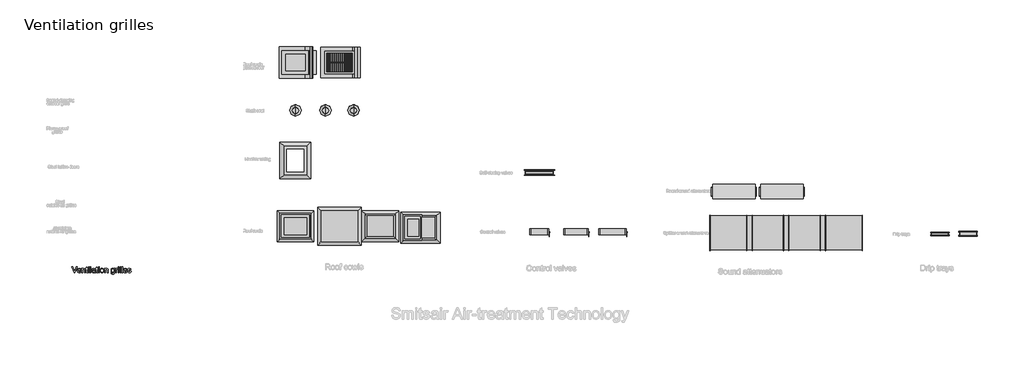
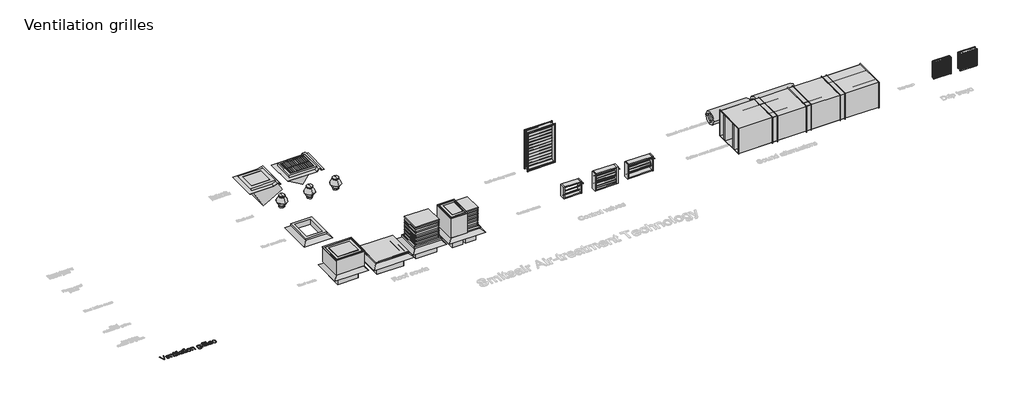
# One storey, part 1 of 10: 12 air terminals, 9 dampers, 5 duct fittings, 1 proxy.
"""IFC4 building model written with IfcOpenShell, lengths in millimetres."""

from ifc_helpers import new_model, si_unit, origin, origin_with_axes, place, context, project, spatial, polyline, outline, extrude, transform, mapped, element, save
from components import air_terminal_31453509, bv_70v_7faa3e46, dk_2_3b327718, dk_2_3_7b97e303, dk_2v_9633a85e, dk_3_dd5dadc6, jkg_1_cb74e8c6, jkk_2_e62a3763, jkk_4_09f567d1, sk_1_al_21574908, dv_225_al_61a347db, dv_325_al_647e2a6a, gd_100_r_55da12c4, gd_200_r_bc078321, gr_9b835bf4, grk_93a78ed1, zk_1_24b9cdc8, dos_al_ee18bb0b, dos_al_2780d545, dos_al_068ffbaa, dos_al_2472da44

model = new_model("IFC4")

# Units and contexts
model_context = context("Model", 3, world=origin())
ifc_project = project(units=[si_unit("LENGTHUNIT", "METRE", prefix="MILLI")], contexts=[model_context])

# Site, building, storey
site = spatial("IfcSite", under=ifc_project)
building = spatial("IfcBuilding", under=site)
storey = spatial("IfcBuildingStorey", under=building, Name="Ventilation grilles", Elevation=0.0)

# Air terminals
placement = place(None, origin())
air_terminal_shape = air_terminal_31453509(model_context)
element("IfcAirTerminal", 1, ObjectType="AIR_FB_Roof cowl DK-2 sunken_SMA : DK-2-sunken", at=placement, inside=storey, context=model_context, shape_type="MappedRepresentation", body=[
    mapped(air_terminal_shape, transform((5432.8807028, -14830.3145791, 0.0), x_axis=(0.0, 1.0, 0.0), y_axis=(-1.0, 0.0, 0.0), z_axis=(0.0, 0.0, 1.0))),
])
bv_70v_shape = bv_70v_7faa3e46(model_context)
element("IfcAirTerminal", 2, ObjectType="AIR_FB_Roof cowl BV-70V_SMA : BV-70V", at=placement, inside=storey, context=model_context, shape_type="MappedRepresentation", body=[
    mapped(bv_70v_shape, transform((5432.8807028, -9030.3145791, 0.0), x_axis=(0.0, 1.0, 0.0), y_axis=(-1.0, 0.0, 0.0), z_axis=(0.0, 0.0, 1.0))),
])
dk_2_shape = dk_2_3b327718(model_context)
element("IfcAirTerminal", 3, ObjectType="AIR_FB_Roof cowl DK-2_SMA : DK-2", at=placement, inside=storey, context=model_context, shape_type="MappedRepresentation", body=[
    mapped(dk_2_shape, transform((3871.0782702, -14830.3145791, 0.0), x_axis=(0.0, 1.0, 0.0), y_axis=(-1.0, 0.0, 0.0), z_axis=(0.0, 0.0, 1.0))),
])
dk_2_3_shape = dk_2_3_7b97e303(model_context)
element("IfcAirTerminal", 4, ObjectType="AIR_FB_Roof cowl DK-23_SMA : DK-2/3", at=placement, inside=storey, context=model_context, shape_type="MappedRepresentation", body=[
    mapped(dk_2_3_shape, transform((8344.8595513, -14880.3145791, 0.0), x_axis=(1.0, 0.0, 0.0), y_axis=(0.0, 1.0, 0.0), z_axis=(0.0, 0.0, 1.0))),
])
dk_2v_shape = dk_2v_9633a85e(model_context)
element("IfcAirTerminal", 5, ObjectType="AIR_FB_Roof cowl DK-2V_SMA : DK-2V", at=placement, inside=storey, context=model_context, shape_type="MappedRepresentation", body=[
    mapped(dk_2v_shape, transform((3871.0782702, -9030.3145791, 0.0), x_axis=(0.0, 1.0, 0.0), y_axis=(-1.0, 0.0, 0.0), z_axis=(0.0, 0.0, 1.0))),
])
dk_3_shape = dk_3_dd5dadc6(model_context)
element("IfcAirTerminal", 6, ObjectType="AIR_FB_Roof cowl DK-3_SMA : DK-3", at=placement, inside=storey, context=model_context, shape_type="MappedRepresentation", body=[
    mapped(dk_3_shape, transform((6877.1260102, -14830.3145791, 0.0), x_axis=(0.0, 1.0, 0.0), y_axis=(-1.0, 0.0, 0.0), z_axis=(0.0, 0.0, 1.0))),
])
jkg_1_shape = jkg_1_cb74e8c6(model_context)
element("IfcAirTerminal", 7, ObjectType="DUA_UN_Volume control valve_SMA : JKG-1", at=placement, inside=storey, context=model_context, shape_type="MappedRepresentation", body=[
    mapped(jkg_1_shape, transform((12512.8807028, -15031.1141048, 300.0), x_axis=(0.0, -1.0, 0.0), y_axis=(1.0, 0.0, 0.0), z_axis=(0.0, 0.0, 1.0))),
])
jkk_2_shape = jkk_2_e62a3763(model_context)
element("IfcAirTerminal", 8, ObjectType="DUA_UN_Volume control valve_SMA : JKK-2", at=placement, inside=storey, context=model_context, shape_type="MappedRepresentation", body=[
    mapped(jkk_2_shape, transform((13812.8807028, -15031.1141048, 300.0), x_axis=(0.0, -1.0, 0.0), y_axis=(1.0, 0.0, 0.0), z_axis=(0.0, 0.0, 1.0))),
])
jkk_4_shape = jkk_4_09f567d1(model_context)
element("IfcAirTerminal", 9, ObjectType="DUA_UN_Volume control valve_SMA : JKK-4", at=placement, inside=storey, context=model_context, shape_type="MappedRepresentation", body=[
    mapped(jkk_4_shape, transform((15112.8807028, -15031.1141048, 300.0), x_axis=(0.0, -1.0, 0.0), y_axis=(1.0, 0.0, 0.0), z_axis=(0.0, 0.0, 1.0))),
])
sk_1_al_shape = sk_1_al_21574908(model_context)
element("IfcAirTerminal", 10, ObjectType="AIR_FB_Shaft cowl SK-1_SMA : SK-1/AL", at=placement, inside=storey, context=model_context, shape_type="MappedRepresentation", body=[
    mapped(sk_1_al_shape, transform((3871.0782702, -10726.9189375, 0.0), x_axis=(0.0, 1.0, 0.0), y_axis=(-1.0, 0.0, 0.0), z_axis=(0.0, 0.0, 1.0))),
])
element("IfcAirTerminal", 11, ObjectType="AIR_FB_Shaft cowl SK-1_SMA : SK-1/RVS", at=placement, inside=storey, context=model_context, shape_type="MappedRepresentation", body=[
    mapped(sk_1_al_shape, transform((4932.8807028, -10726.9189375, 0.0), x_axis=(0.0, 1.0, 0.0), y_axis=(-1.0, 0.0, 0.0), z_axis=(0.0, 0.0, 1.0))),
])
element("IfcAirTerminal", 12, ObjectType="AIR_FB_Shaft cowl SK-1_SMA : SK-1/VV", at=placement, inside=storey, context=model_context, shape_type="MappedRepresentation", body=[
    mapped(sk_1_al_shape, transform((5932.8807028, -10726.9189375, 0.0), x_axis=(0.0, 1.0, 0.0), y_axis=(-1.0, 0.0, 0.0), z_axis=(0.0, 0.0, 1.0))),
])

# Proxy
element("IfcBuildingElementProxy", 13, Name="200mm", ObjectType="200mm", at=placement, inside=storey, context=model_context, shape_type="SweptSolid", body=[
    extrude(outline(polyline([(-3971.9374393, -16478.0938306), (-4051.8904596, -16277.1812103), (-4025.0105485, -16277.1812103), (-3971.4959809, -16421.9305126), (-3960.6557248, -16454.5493829), (-3949.9626215, -16421.9305126), (-3896.3009011, -16277.1812103), (-3869.42099, -16277.1812103), (-3945.9894959, -16478.0938306), (-3971.9374393, -16478.0938306)])), origin_with_axes(), (0.0, 0.0, 1.0), 5.0),
    extrude(outline(polyline([(-3745.9107415, -16434.1441949), (-3721.2871733, -16437.2834546), (-3730.1592607, -16455.8369699), (-3744.3165862, -16469.7061211), (-3763.4403186, -16478.351348), (-3787.2116268, -16481.2330903), (-3816.6789746, -16476.260552), (-3839.3527683, -16461.3429371), (-3853.8105307, -16437.4490015), (-3858.6297848, -16405.5475011), (-3853.7614798, -16372.5730116), (-3839.1565645, -16347.9126552), (-3816.7893392, -16332.5351878), (-3788.6341039, -16327.4093653), (-3761.3556539, -16332.5229251), (-3739.5586457, -16347.8636043), (-3725.2664302, -16372.4749098), (-3720.5023584, -16405.4003483), (-3720.6495112, -16412.169377), (-3833.5157073, -16412.169377), (-3829.1685684, -16430.968147), (-3819.0702076, -16444.7882473), (-3804.4959492, -16453.2863214), (-3786.7211175, -16456.1190127), (-3762.0975493, -16450.8705629), (-3752.9495503, -16444.064746), (-3745.9107415, -16434.1441949)]), holes=[polyline([(-3833.5157073, -16387.0552995), (-3745.6164359, -16387.0552995), (-3749.013213, -16373.7870222), (-3755.6718771, -16364.2956667), (-3770.3135805, -16355.4664988), (-3788.7322057, -16352.5234429), (-3805.6609089, -16354.8717563), (-3819.6588188, -16361.9166965), (-3829.3892976, -16372.897974), (-3833.5157073, -16387.0552995)])]), origin_with_axes(), (0.0, 0.0, 1.0), 5.0),
    extrude(outline(polyline([(-3695.3882808, -16478.0938306), (-3695.3882808, -16330.548625), (-3670.2742033, -16330.548625), (-3670.2742033, -16351.1500168), (-3661.5492686, -16340.7634818), (-3651.0707631, -16333.3445282), (-3638.8386868, -16328.8931561), (-3624.8530396, -16327.4093653), (-3601.1369137, -16332.1918313), (-3584.9501059, -16344.74887), (-3577.4207877, -16363.2165462), (-3576.0964125, -16387.4967579), (-3576.0964125, -16478.0938306), (-3601.2104901, -16478.0938306), (-3601.2104901, -16390.8812722), (-3604.1044951, -16368.6611997), (-3614.3316146, -16356.9135014), (-3631.5730174, -16352.5234429), (-3646.2821658, -16354.9882522), (-3658.8208105, -16362.3826803), (-3667.4108551, -16376.6687645), (-3670.2742033, -16399.808542), (-3670.2742033, -16478.0938306), (-3695.3882808, -16478.0938306)])), origin_with_axes(), (0.0, 0.0, 1.0), 5.0),
    extrude(outline(polyline([(-3488.1971411, -16457.1490823), (-3485.0578815, -16478.8295946), (-3503.8443887, -16481.2330903), (-3524.8872388, -16477.063761), (-3535.3841384, -16466.125403), (-3538.4252962, -16437.6268111), (-3538.4252962, -16355.6627026), (-3557.2608544, -16355.6627026), (-3557.2608544, -16330.548625), (-3538.4252962, -16330.548625), (-3538.4252962, -16294.6923932), (-3513.3112187, -16279.9280625), (-3513.3112187, -16330.548625), (-3488.1971411, -16330.548625), (-3488.1971411, -16355.6627026), (-3513.3112187, -16355.6627026), (-3513.3112187, -16436.8910471), (-3511.9868435, -16449.8404933), (-3507.6948869, -16454.4267555), (-3499.1354991, -16456.1190127), (-3488.1971411, -16457.1490823)])), origin_with_axes(), (0.0, 0.0, 1.0), 5.0),
    extrude(outline(polyline([(-3463.0830636, -16478.0938306), (-3463.0830636, -16330.548625), (-3437.9689861, -16330.548625), (-3437.9689861, -16478.0938306), (-3463.0830636, -16478.0938306)])), origin_with_axes(), (0.0, 0.0, 1.0), 5.0),
    extrude(outline(polyline([(-3463.0830636, -16302.2952878), (-3463.0830636, -16277.1812103), (-3437.9689861, -16277.1812103), (-3437.9689861, -16302.2952878), (-3463.0830636, -16302.2952878)])), origin_with_axes(), (0.0, 0.0, 1.0), 5.0),
    extrude(outline(polyline([(-3400.2978698, -16478.0938306), (-3400.2978698, -16277.1812103), (-3375.1837922, -16277.1812103), (-3375.1837922, -16478.0938306), (-3400.2978698, -16478.0938306)])), origin_with_axes(), (0.0, 0.0, 1.0), 5.0),
    extrude(outline(polyline([(-3243.3348852, -16459.2582724), (-3267.6886732, -16476.2789461), (-3294.5931098, -16481.2330903), (-3315.5807776, -16478.2532461), (-3331.0624783, -16469.3137136), (-3340.6090161, -16455.738868), (-3343.7911953, -16438.8530844), (-3338.9842039, -16418.9874567), (-3326.3535887, -16404.5664825), (-3308.7688294, -16396.3259258), (-3287.0392662, -16392.549004), (-3243.482038, -16383.9160398), (-3243.3348852, -16378.3242335), (-3245.0639305, -16367.1160954), (-3250.2510667, -16359.7829809), (-3261.8516123, -16354.3383274), (-3278.0138946, -16352.5234429), (-3292.974429, -16353.7313221), (-3303.4222777, -16357.3549597), (-3310.5469257, -16364.0565434), (-3315.5378581, -16374.4982607), (-3340.6519356, -16371.359001), (-3329.787154, -16346.8335347), (-3320.5287905, -16338.5807153), (-3307.910438, -16332.4616114), (-3274.776533, -16327.4093653), (-3244.3404293, -16331.8730002), (-3227.1480774, -16343.0811383), (-3219.4470809, -16360.1263374), (-3218.2208076, -16382.1011553), (-3218.2208076, -16413.3465994), (-3216.9454834, -16456.977404), (-3211.9422882, -16478.0938306), (-3237.0563658, -16478.0938306), (-3243.3348852, -16459.2582724)]), holes=[polyline([(-3243.3348852, -16409.0301173), (-3283.8509556, -16416.7311138), (-3305.4578914, -16420.8023412), (-3315.2435525, -16427.4242171), (-3318.6771178, -16437.0872508), (-3316.807051, -16444.5552553), (-3311.1968505, -16450.6743592), (-3301.9691438, -16454.7578493), (-3289.2465582, -16456.1190127), (-3275.7575517, -16454.6168279), (-3263.838175, -16450.1102735), (-3247.4551635, -16435.5666719), (-3243.482038, -16416.1425026), (-3243.3348852, -16409.0301173)])]), origin_with_axes(), (0.0, 0.0, 1.0), 5.0),
    extrude(outline(polyline([(-3130.3215362, -16457.1490823), (-3127.1822765, -16478.8295946), (-3145.9687838, -16481.2330903), (-3167.0116339, -16477.063761), (-3177.5085335, -16466.125403), (-3180.5496913, -16437.6268111), (-3180.5496913, -16355.6627026), (-3199.3852495, -16355.6627026), (-3199.3852495, -16330.548625), (-3180.5496913, -16330.548625), (-3180.5496913, -16294.6923932), (-3155.4356138, -16279.9280625), (-3155.4356138, -16330.548625), (-3130.3215362, -16330.548625), (-3130.3215362, -16355.6627026), (-3155.4356138, -16355.6627026), (-3155.4356138, -16436.8910471), (-3154.1112386, -16449.8404933), (-3149.819282, -16454.4267555), (-3141.2598942, -16456.1190127), (-3130.3215362, -16457.1490823)])), origin_with_axes(), (0.0, 0.0, 1.0), 5.0),
    extrude(outline(polyline([(-3105.2074587, -16478.0938306), (-3105.2074587, -16330.548625), (-3080.0933812, -16330.548625), (-3080.0933812, -16478.0938306), (-3105.2074587, -16478.0938306)])), origin_with_axes(), (0.0, 0.0, 1.0), 5.0),
    extrude(outline(polyline([(-3105.2074587, -16302.2952878), (-3105.2074587, -16277.1812103), (-3080.0933812, -16277.1812103), (-3080.0933812, -16302.2952878), (-3105.2074587, -16302.2952878)])), origin_with_axes(), (0.0, 0.0, 1.0), 5.0),
    extrude(outline(polyline([(-3048.7007842, -16404.3212278), (-3043.2683934, -16368.7470389), (-3036.477905, -16354.9238729), (-3026.9712211, -16343.7433259), (-3006.8358132, -16331.4928555), (-2982.7272798, -16327.4093653), (-2956.3440094, -16332.3819036), (-2935.2705024, -16347.2995185), (-2921.4565335, -16370.9849877), (-2916.8518772, -16402.2610886), (-2918.8874909, -16427.6326836), (-2924.994332, -16446.9464883), (-2934.9945909, -16461.4103821), (-2948.710458, -16472.2322441), (-2965.001499, -16478.9828787), (-2982.7272798, -16481.2330903), (-3009.4293813, -16476.2789461), (-3030.4783628, -16461.4165135), (-3044.1451789, -16437.2344036), (-3048.7007842, -16404.3212278)]), holes=[polyline([(-3023.5867067, -16404.2721769), (-3020.6804389, -16427.0011528), (-3011.9616357, -16443.194092), (-2998.8405112, -16452.8877825), (-2982.7272798, -16456.1190127), (-2966.6876248, -16452.8693884), (-2953.5910258, -16443.1205156), (-2944.8722225, -16426.7129786), (-2941.9659547, -16403.4873619), (-2944.8906166, -16381.4205736), (-2953.6646022, -16365.4483636), (-2966.7795953, -16355.7546731), (-2982.7272798, -16352.5234429), (-2998.8405112, -16355.7424103), (-3011.9616357, -16365.3993127), (-3020.6804389, -16381.5554637), (-3023.5867067, -16404.2721769)])]), origin_with_axes(), (0.0, 0.0, 1.0), 5.0),
    extrude(outline(polyline([(-2888.5985399, -16478.0938306), (-2888.5985399, -16330.548625), (-2863.4844624, -16330.548625), (-2863.4844624, -16351.1500168), (-2854.7595278, -16340.7634818), (-2844.2810223, -16333.3445282), (-2832.0489459, -16328.8931561), (-2818.0632987, -16327.4093653), (-2794.3471728, -16332.1918313), (-2778.160365, -16344.74887), (-2770.6310468, -16363.2165462), (-2769.3066716, -16387.4967579), (-2769.3066716, -16478.0938306), (-2794.4207492, -16478.0938306), (-2794.4207492, -16390.8812722), (-2797.3147542, -16368.6611997), (-2807.5418737, -16356.9135014), (-2824.7832765, -16352.5234429), (-2839.492425, -16354.9882522), (-2852.0310696, -16362.3826803), (-2860.6211142, -16376.6687645), (-2863.4844624, -16399.808542), (-2863.4844624, -16478.0938306), (-2888.5985399, -16478.0938306)])), origin_with_axes(), (0.0, 0.0, 1.0), 5.0),
    extrude(outline(polyline([(-2662.5718421, -16490.6508693), (-2637.4577646, -16493.790129), (-2634.6863869, -16501.6382783), (-2629.3153097, -16507.0338809), (-2618.7570965, -16511.2277356), (-2604.9369962, -16512.6256872), (-2590.1971909, -16511.0437946), (-2579.2343075, -16506.2981169), (-2571.6314129, -16498.6952223), (-2566.9715743, -16488.5416792), (-2565.2547916, -16459.2582724), (-2582.9376529, -16473.384941), (-2604.4955378, -16478.0938306), (-2630.3882989, -16472.6123888), (-2649.6959723, -16456.1680637), (-2661.7073194, -16432.0595302), (-2665.7111018, -16403.5854638), (-2663.9146114, -16383.3090345), (-2658.5251402, -16364.6635487), (-2649.7327605, -16348.863017), (-2637.7275447, -16337.12145), (-2622.9202944, -16329.8373865), (-2605.7218111, -16327.4093653), (-2583.3177976, -16332.9030698), (-2565.2547916, -16349.3841832), (-2565.2547916, -16330.548625), (-2540.1407141, -16330.548625), (-2540.1407141, -16457.9338972), (-2541.8574968, -16487.3460627), (-2547.0078447, -16506.7150498), (-2555.8799321, -16519.5602628), (-2568.7619333, -16529.4011062), (-2585.3718054, -16535.6551001), (-2605.4275055, -16537.7397647), (-2628.7941436, -16534.8028401), (-2647.1943747, -16525.9920663), (-2658.9972554, -16511.2829179), (-2662.5718421, -16490.6508693)]), holes=[polyline([(-2640.5970243, -16401.8686812), (-2637.9176171, -16424.9042254), (-2629.8793955, -16440.7415453), (-2617.7944719, -16449.9202011), (-2602.9749589, -16452.979753), (-2588.2658104, -16449.9385952), (-2576.1195732, -16440.8151217), (-2567.970987, -16425.1801369), (-2565.2547916, -16402.6044452), (-2568.0506948, -16380.8319624), (-2576.4384043, -16365.154058), (-2588.7624511, -16355.6810967), (-2603.3673664, -16352.5234429), (-2617.7086328, -16355.6320457), (-2629.7322427, -16364.9578543), (-2637.8808289, -16380.4027667), (-2640.5970243, -16401.8686812)])]), origin_with_axes(), (0.0, 0.0, 1.0), 5.0),
    extrude(outline(polyline([(-2502.4695978, -16478.0938306), (-2502.4695978, -16330.548625), (-2480.49478, -16330.548625), (-2480.49478, -16352.3762901), (-2464.8965834, -16332.2654077), (-2449.2002849, -16327.4093653), (-2436.6922971, -16329.3468772), (-2423.9881055, -16335.1594127), (-2432.375815, -16357.6737908), (-2450.0341508, -16352.5234429), (-2464.2343958, -16357.4775871), (-2473.2842929, -16371.2118482), (-2477.3555203, -16400.544306), (-2477.3555203, -16478.0938306), (-2502.4695978, -16478.0938306)])), origin_with_axes(), (0.0, 0.0, 1.0), 5.0),
    extrude(outline(polyline([(-2408.291807, -16478.0938306), (-2408.291807, -16330.548625), (-2383.1777295, -16330.548625), (-2383.1777295, -16478.0938306), (-2408.291807, -16478.0938306)])), origin_with_axes(), (0.0, 0.0, 1.0), 5.0),
    extrude(outline(polyline([(-2408.291807, -16302.2952878), (-2408.291807, -16277.1812103), (-2383.1777295, -16277.1812103), (-2383.1777295, -16302.2952878), (-2408.291807, -16302.2952878)])), origin_with_axes(), (0.0, 0.0, 1.0), 5.0),
    extrude(outline(polyline([(-2345.5066132, -16478.0938306), (-2345.5066132, -16277.1812103), (-2320.3925357, -16277.1812103), (-2320.3925357, -16478.0938306), (-2345.5066132, -16478.0938306)])), origin_with_axes(), (0.0, 0.0, 1.0), 5.0),
    extrude(outline(polyline([(-2282.7214194, -16478.0938306), (-2282.7214194, -16277.1812103), (-2257.6073418, -16277.1812103), (-2257.6073418, -16478.0938306), (-2282.7214194, -16478.0938306)])), origin_with_axes(), (0.0, 0.0, 1.0), 5.0),
    extrude(outline(polyline([(-2116.6349613, -16434.1441949), (-2092.0113931, -16437.2834546), (-2100.8834805, -16455.8369699), (-2115.040806, -16469.7061211), (-2134.1645383, -16478.351348), (-2157.9358466, -16481.2330903), (-2187.4031944, -16476.260552), (-2210.076988, -16461.3429371), (-2224.5347505, -16437.4490015), (-2229.3540046, -16405.5475011), (-2224.4856995, -16372.5730116), (-2209.8807843, -16347.9126552), (-2187.513559, -16332.5351878), (-2159.3583236, -16327.4093653), (-2132.0798737, -16332.5229251), (-2110.2828655, -16347.8636043), (-2095.99065, -16372.4749098), (-2091.2265781, -16405.4003483), (-2091.3737309, -16412.169377), (-2204.239927, -16412.169377), (-2199.8927881, -16430.968147), (-2189.7944274, -16444.7882473), (-2175.220169, -16453.2863214), (-2157.4453373, -16456.1190127), (-2132.8217691, -16450.8705629), (-2123.6737701, -16444.064746), (-2116.6349613, -16434.1441949)]), holes=[polyline([(-2204.239927, -16387.0552995), (-2116.3406557, -16387.0552995), (-2119.7374328, -16373.7870222), (-2126.3960969, -16364.2956667), (-2141.0378003, -16355.4664988), (-2159.4564255, -16352.5234429), (-2176.3851286, -16354.8717563), (-2190.3830386, -16361.9166965), (-2200.1135173, -16372.897974), (-2204.239927, -16387.0552995)])]), origin_with_axes(), (0.0, 0.0, 1.0), 5.0),
    extrude(outline(polyline([(-2075.5302797, -16434.1441949), (-2050.4162021, -16431.0049352), (-2046.4553393, -16441.7470894), (-2038.7911311, -16449.6442896), (-2027.3745265, -16454.5003319), (-2012.1564746, -16456.1190127), (-1997.1223638, -16454.635222), (-1986.5518878, -16450.1838499), (-1980.2978939, -16443.7336522), (-1978.2132292, -16436.253385), (-1980.3101566, -16429.8522383), (-1986.6009387, -16424.9716705), (-2012.4507802, -16417.8102343), (-2050.2690493, -16405.5229757), (-2059.8401126, -16399.3486895), (-2066.7746882, -16391.1755778), (-2072.39102, -16370.9175426), (-2067.8783342, -16352.2046118), (-2055.5665501, -16337.9062649), (-2039.6004715, -16330.4750486), (-2017.9935356, -16327.4093653), (-1987.4348046, -16332.3389841), (-1976.0059372, -16338.1392569), (-1968.0106352, -16345.6808378), (-1959.3776711, -16368.2197413), (-1984.4917486, -16371.359001), (-1987.6616651, -16363.4556695), (-1993.9340531, -16357.5021125), (-2016.0314983, -16352.5234429), (-2030.4524725, -16353.712928), (-2040.0664553, -16357.2813833), (-2045.4743207, -16362.4317313), (-2047.2769424, -16368.3668941), (-2044.2848355, -16375.6754831), (-2034.9161074, -16381.2182385), (-2013.2846461, -16386.5647902), (-1976.4228702, -16398.3860649), (-1959.3040947, -16411.7769696), (-1954.6503874, -16421.6239443), (-1953.0991517, -16433.6046346), (-1954.9201676, -16445.9899951), (-1960.3832152, -16457.6395916), (-1969.2798281, -16467.6398505), (-1981.4015398, -16475.0771982), (-1996.0432432, -16479.6941172), (-2012.4998312, -16481.2330903), (-2037.8223752, -16478.2655088), (-2056.3023141, -16469.3627645), (-2068.6386236, -16454.6229593), (-2075.5302797, -16434.1441949)])), origin_with_axes(), (0.0, 0.0, 1.0), 5.0),
])

# Dampers
dv_225_al_shape = dv_225_al_61a347db(model_context)
element("IfcDamper", 14, ObjectType="DUA_UN_Drip tray DV_SMA : DV-225/AL", at=placement, inside=storey, context=model_context, shape_type="MappedRepresentation", body=[
    mapped(dv_225_al_shape, transform((26712.8807028, -15102.4763678, 300.0), x_axis=(0.0, -1.0, 0.0), y_axis=(1.0, 0.0, 0.0), z_axis=(0.0, 0.0, 1.0))),
])
dv_325_al_shape = dv_325_al_647e2a6a(model_context)
element("IfcDamper", 15, ObjectType="DUA_UN_Drip tray DV_SMA : DV-325/AL", at=placement, inside=storey, context=model_context, shape_type="MappedRepresentation", body=[
    mapped(dv_325_al_shape, transform((27712.8807028, -15102.4763678, 300.0), x_axis=(0.0, -1.0, 0.0), y_axis=(1.0, 0.0, 0.0), z_axis=(0.0, 0.0, 1.0))),
])
gd_100_r_shape = gd_100_r_55da12c4(model_context)
element("IfcDamper", 16, ObjectType="DUA_UN_Splitter sound attenuator_SMA : GD-100", at=placement, inside=storey, context=model_context, shape_type="MappedRepresentation", body=[
    mapped(gd_100_r_shape, transform((19312.8807028, -15073.1751921, 500.0), x_axis=(1.0, 0.0, 0.0), y_axis=(0.0, 1.0, 0.0), z_axis=(0.0, 0.0, 1.0))),
])
element("IfcDamper", 17, ObjectType="DUA_UN_Splitter sound attenuator_SMA : GD-100 R", at=placement, inside=storey, context=model_context, shape_type="MappedRepresentation", body=[
    mapped(gd_100_r_shape, transform((20612.8807028, -15073.1751921, 500.0), x_axis=(1.0, 0.0, 0.0), y_axis=(0.0, 1.0, 0.0), z_axis=(0.0, 0.0, 1.0))),
])
gd_200_r_shape = gd_200_r_bc078321(model_context)
element("IfcDamper", 18, ObjectType="DUA_UN_Splitter sound attenuator_SMA : GD-200", at=placement, inside=storey, context=model_context, shape_type="MappedRepresentation", body=[
    mapped(gd_200_r_shape, transform((21912.8807028, -15073.1751921, 500.0), x_axis=(1.0, 0.0, 0.0), y_axis=(0.0, 1.0, 0.0), z_axis=(0.0, 0.0, 1.0))),
])
element("IfcDamper", 19, ObjectType="DUA_UN_Splitter sound attenuator_SMA : GD-200 R", at=placement, inside=storey, context=model_context, shape_type="MappedRepresentation", body=[
    mapped(gd_200_r_shape, transform((23212.8807028, -15073.1751921, 500.0), x_axis=(1.0, 0.0, 0.0), y_axis=(0.0, 1.0, 0.0), z_axis=(0.0, 0.0, 1.0))),
])
gr_shape = gr_9b835bf4(model_context)
element("IfcDamper", 20, ObjectType="DUA_UN_Round sound attenuator_SMA : GR", at=placement, inside=storey, context=model_context, shape_type="MappedRepresentation", body=[
    mapped(gr_shape, transform((19410.6479588, -13610.2457618, 162.5), x_axis=(1.0, 0.0, 0.0), y_axis=(0.0, 1.0, 0.0), z_axis=(0.0, 0.0, 1.0))),
])
grk_shape = grk_93a78ed1(model_context)
element("IfcDamper", 21, ObjectType="DUA_UN_Round sound attenuator_SMA : GRK", at=placement, inside=storey, context=model_context, shape_type="MappedRepresentation", body=[
    mapped(grk_shape, transform((21110.6479588, -13610.2457618, 162.5), x_axis=(1.0, 0.0, 0.0), y_axis=(0.0, 1.0, 0.0), z_axis=(0.0, 0.0, 1.0))),
])
zk_1_shape = zk_1_24b9cdc8(model_context)
element("IfcDamper", 22, ObjectType="DUA_UN_Self-closing valve ZK-1_SMA : ZK-1", at=placement, inside=storey, context=model_context, shape_type="MappedRepresentation", body=[
    mapped(zk_1_shape, transform((12512.8807028, -12931.1141048, 750.0), x_axis=(0.0, -1.0, 0.0), y_axis=(1.0, 0.0, 0.0), z_axis=(0.0, 0.0, 1.0))),
])

# Duct fittings
dos_al_shape = dos_al_ee18bb0b(model_context)
element("IfcDuctFitting", 23, ObjectType="DUF_FB_Roof mounting DOS-AL_SH_SMA : DOS/AL", at=placement, inside=storey, context=model_context, shape_type="MappedRepresentation", body=[
    mapped(dos_al_shape, transform((3871.0782702, -14830.3145791, 0.0), x_axis=(0.0, 1.0, 0.0), y_axis=(-1.0, 0.0, 0.0), z_axis=(0.0, 0.0, 1.0))),
])
element("IfcDuctFitting", 24, ObjectType="DUF_FB_Roof mounting DOS-AL_SH_SMA : DOS/AL", at=placement, inside=storey, context=model_context, shape_type="MappedRepresentation", body=[
    mapped(dos_al_shape, transform((6877.1260102, -14830.3145791, 0.0), x_axis=(0.0, 1.0, 0.0), y_axis=(-1.0, 0.0, 0.0), z_axis=(0.0, 0.0, 1.0))),
])
dos_al_2_shape = dos_al_2780d545(model_context)
element("IfcDuctFitting", 25, ObjectType="DUF_FB_Roof mounting DOS-AL_SH_SMA : DOS/AL", at=placement, inside=storey, context=model_context, shape_type="MappedRepresentation", body=[
    mapped(dos_al_2_shape, transform((8294.8595513, -14880.3145791, 0.0), x_axis=(1.0, 0.0, 0.0), y_axis=(0.0, 1.0, 0.0), z_axis=(0.0, 0.0, 1.0))),
])
dos_al_3_shape = dos_al_068ffbaa(model_context)
element("IfcDuctFitting", 26, ObjectType="DUF_FB_Roof mounting DOS-AL_SH_SMA : DOS/AL", at=placement, inside=storey, context=model_context, shape_type="MappedRepresentation", body=[
    mapped(dos_al_3_shape, transform((5432.8807028, -14830.3145791, 0.0), x_axis=(0.0, 1.0, 0.0), y_axis=(-1.0, 0.0, 0.0), z_axis=(0.0, 0.0, 1.0))),
])
dos_al_4_shape = dos_al_2472da44(model_context)
element("IfcDuctFitting", 27, ObjectType="DUF_FB_Roof mounting DOS-AL_SH_SMA : DOS/AL", at=placement, inside=storey, context=model_context, shape_type="MappedRepresentation", body=[
    mapped(dos_al_4_shape, transform((3871.0782702, -12506.9189375, 0.0), x_axis=(0.0, 1.0, 0.0), y_axis=(-1.0, 0.0, 0.0), z_axis=(0.0, 0.0, 1.0))),
])

save(model, "model.ifc")
